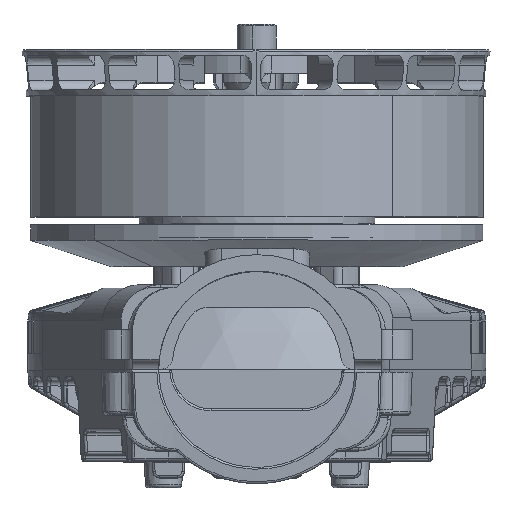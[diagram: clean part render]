
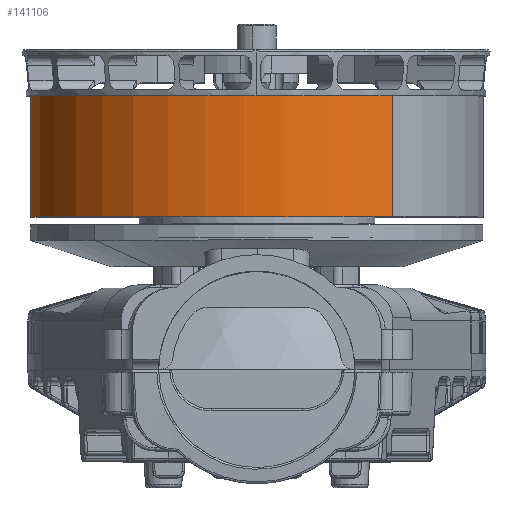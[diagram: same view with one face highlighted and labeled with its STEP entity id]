
A CAD part, top view. The second image highlights one B-rep face of the part: STEP entity #141106.
In plain terms, the highlighted cylindrical face has radius 34.65 mm (diameter 69.3 mm), a partial arc.
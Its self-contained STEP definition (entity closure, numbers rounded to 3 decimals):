
#3432 = VERTEX_POINT ( 'NONE', #160109 ) ;
#4604 = ORIENTED_EDGE ( 'NONE', *, *, #117739, .T. ) ;
#9247 = CARTESIAN_POINT ( 'NONE',  ( 0., 0., 34.65 ) ) ;
#16838 = CARTESIAN_POINT ( 'NONE',  ( 0., 0., 0. ) ) ;
#18796 = DIRECTION ( 'NONE',  ( 0., -1., 0. ) ) ;
#23589 = DIRECTION ( 'NONE',  ( 0., 0., -1. ) ) ;
#27158 = CIRCLE ( 'NONE', #136390, 34.65 ) ;
#28660 = EDGE_CURVE ( 'NONE', #81561, #139959, #27158, .T. ) ;
#47214 = CARTESIAN_POINT ( 'NONE',  ( 0., 0., -34.65 ) ) ;
#49631 = FACE_OUTER_BOUND ( 'NONE', #133399, .T. ) ;
#52731 = DIRECTION ( 'NONE',  ( 0., 0., -1. ) ) ;
#53667 = DIRECTION ( 'NONE',  ( 0., -1., 0. ) ) ;
#54470 = DIRECTION ( 'NONE',  ( 0., 0., -1. ) ) ;
#57237 = VECTOR ( 'NONE', #84197, 1000. ) ;
#66460 = CARTESIAN_POINT ( 'NONE',  ( 0., 0., -34.65 ) ) ;
#68498 = VERTEX_POINT ( 'NONE', #151801 ) ;
#75559 = ORIENTED_EDGE ( 'NONE', *, *, #90211, .F. ) ;
#75883 = VECTOR ( 'NONE', #18796, 1000. ) ;
#77232 = ORIENTED_EDGE ( 'NONE', *, *, #155647, .T. ) ;
#81561 = VERTEX_POINT ( 'NONE', #66460 ) ;
#84197 = DIRECTION ( 'NONE',  ( 0., -1., 0. ) ) ;
#84732 = LINE ( 'NONE', #47214, #75883 ) ;
#85297 = CARTESIAN_POINT ( 'NONE',  ( 0., 0., 34.65 ) ) ;
#85521 = DIRECTION ( 'NONE',  ( 0., -1., 0. ) ) ;
#90211 = EDGE_CURVE ( 'NONE', #3432, #81561, #84732, .T. ) ;
#92689 = AXIS2_PLACEMENT_3D ( 'NONE', #147470, #85521, #23589 ) ;
#97718 = CYLINDRICAL_SURFACE ( 'NONE', #92689, 34.65 ) ;
#104025 = DIRECTION ( 'NONE',  ( 0., -1., 0. ) ) ;
#105907 = CIRCLE ( 'NONE', #137101, 34.65 ) ;
#116012 = ORIENTED_EDGE ( 'NONE', *, *, #28660, .F. ) ;
#117739 = EDGE_CURVE ( 'NONE', #3432, #68498, #105907, .T. ) ;
#118517 = LINE ( 'NONE', #9247, #57237 ) ;
#133399 = EDGE_LOOP ( 'NONE', ( #4604, #77232, #116012, #75559 ) ) ;
#136390 = AXIS2_PLACEMENT_3D ( 'NONE', #16838, #104025, #52731 ) ;
#137101 = AXIS2_PLACEMENT_3D ( 'NONE', #142452, #53667, #54470 ) ;
#139959 = VERTEX_POINT ( 'NONE', #85297 ) ;
#141106 = ADVANCED_FACE ( 'NONE', ( #49631 ), #97718, .T. ) ;
#142452 = CARTESIAN_POINT ( 'NONE',  ( 0., 18.5, 0. ) ) ;
#147470 = CARTESIAN_POINT ( 'NONE',  ( 0., 0., 0. ) ) ;
#151801 = CARTESIAN_POINT ( 'NONE',  ( 0., 18.5, 34.65 ) ) ;
#155647 = EDGE_CURVE ( 'NONE', #68498, #139959, #118517, .T. ) ;
#160109 = CARTESIAN_POINT ( 'NONE',  ( 0., 18.5, -34.65 ) ) ;
